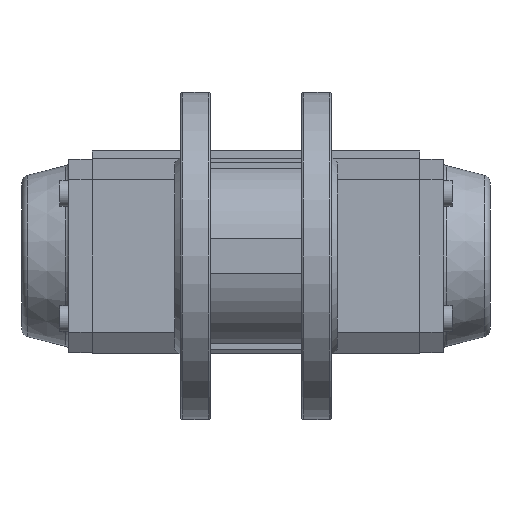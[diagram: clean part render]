
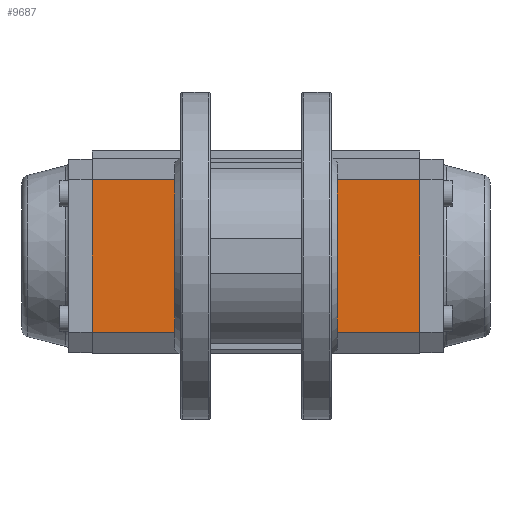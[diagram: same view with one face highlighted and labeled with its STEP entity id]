
A CAD part, front view. The second image highlights one B-rep face of the part: STEP entity #9687.
In plain terms, the highlighted planar face has unit normal (0, -1, 0).
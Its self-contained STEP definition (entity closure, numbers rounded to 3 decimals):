
#370 = EDGE_LOOP ( 'NONE', ( #613, #614 ) ) ;
#371 = EDGE_LOOP ( 'NONE', ( #617, #618 ) ) ;
#372 = EDGE_LOOP ( 'NONE', ( #615, #616 ) ) ;
#375 = EDGE_LOOP ( 'NONE', ( #611, #612 ) ) ;
#611 = ORIENTED_EDGE ( 'NONE', *, *, #9513, .F. ) ;
#612 = ORIENTED_EDGE ( 'NONE', *, *, #10333, .F. ) ;
#613 = ORIENTED_EDGE ( 'NONE', *, *, #9623, .F. ) ;
#614 = ORIENTED_EDGE ( 'NONE', *, *, #10337, .F. ) ;
#615 = ORIENTED_EDGE ( 'NONE', *, *, #9511, .F. ) ;
#616 = ORIENTED_EDGE ( 'NONE', *, *, #10206, .F. ) ;
#617 = ORIENTED_EDGE ( 'NONE', *, *, #9625, .F. ) ;
#618 = ORIENTED_EDGE ( 'NONE', *, *, #10350, .F. ) ;
#619 = ORIENTED_EDGE ( 'NONE', *, *, #9561, .F. ) ;
#620 = ORIENTED_EDGE ( 'NONE', *, *, #10309, .F. ) ;
#621 = ORIENTED_EDGE ( 'NONE', *, *, #9519, .T. ) ;
#622 = ORIENTED_EDGE ( 'NONE', *, *, #9473, .F. ) ;
#623 = ORIENTED_EDGE ( 'NONE', *, *, #9578, .F. ) ;
#624 = ORIENTED_EDGE ( 'NONE', *, *, #9532, .T. ) ;
#2103 = VECTOR ( 'NONE', #12789, 1000. ) ;
#2151 = CIRCLE ( 'NONE', #2153, 3.4 ) ;
#2152 = CIRCLE ( 'NONE', #2156, 3.4 ) ;
#2153 = AXIS2_PLACEMENT_3D ( 'NONE', #5457, #5458, #5459 ) ;
#2156 = AXIS2_PLACEMENT_3D ( 'NONE', #5465, #5466, #5467 ) ;
#2162 = VECTOR ( 'NONE', #5483, 1000. ) ;
#2173 = VECTOR ( 'NONE', #5522, 1000. ) ;
#2209 = CIRCLE ( 'NONE', #2214, 27.5 ) ;
#2214 = AXIS2_PLACEMENT_3D ( 'NONE', #5608, #5609, #5610 ) ;
#2233 = VECTOR ( 'NONE', #5661, 1000. ) ;
#2452 = CIRCLE ( 'NONE', #2457, 3.4 ) ;
#2457 = AXIS2_PLACEMENT_3D ( 'NONE', #5795, #5796, #5797 ) ;
#2458 = CIRCLE ( 'NONE', #2460, 3.4 ) ;
#2460 = AXIS2_PLACEMENT_3D ( 'NONE', #5801, #5802, #5803 ) ;
#4146 = AXIS2_PLACEMENT_3D ( 'NONE', #4976, #4977, #4978 ) ;
#4964 = FACE_BOUND ( 'NONE', #370, .T. ) ;
#4969 = FACE_BOUND ( 'NONE', #12152, .T. ) ;
#4970 = FACE_BOUND ( 'NONE', #375, .T. ) ;
#4971 = FACE_OUTER_BOUND ( 'NONE', #12151, .T. ) ;
#4972 = PLANE ( 'NONE',  #4146 ) ;
#4973 = FACE_BOUND ( 'NONE', #372, .T. ) ;
#4975 = FACE_BOUND ( 'NONE', #371, .T. ) ;
#4976 = CARTESIAN_POINT ( 'NONE',  ( -38.5, -55., -82.5 ) ) ;
#4977 = DIRECTION ( 'NONE',  ( 0., -1., 0. ) ) ;
#4978 = DIRECTION ( 'NONE',  ( 0., 0., -1. ) ) ;
#5457 = CARTESIAN_POINT ( 'NONE',  ( -24.749, -55., -24.749 ) ) ;
#5458 = DIRECTION ( 'NONE',  ( 0., -1., 0. ) ) ;
#5459 = DIRECTION ( 'NONE',  ( 0., 0., -1. ) ) ;
#5465 = CARTESIAN_POINT ( 'NONE',  ( 24.749, -55., 24.749 ) ) ;
#5466 = DIRECTION ( 'NONE',  ( 0., -1., 0. ) ) ;
#5467 = DIRECTION ( 'NONE',  ( 0., 0., -1. ) ) ;
#5472 = LINE ( 'NONE', #5473, #2162 ) ;
#5473 = CARTESIAN_POINT ( 'NONE',  ( 38.5, -55., -82.5 ) ) ;
#5483 = DIRECTION ( 'NONE',  ( 0., 0., 1. ) ) ;
#5501 = LINE ( 'NONE', #5521, #2173 ) ;
#5521 = CARTESIAN_POINT ( 'NONE',  ( -38.5, -55., -82.5 ) ) ;
#5522 = DIRECTION ( 'NONE',  ( 1., 0., 0. ) ) ;
#5608 = CARTESIAN_POINT ( 'NONE',  ( 0., -55., 0. ) ) ;
#5609 = DIRECTION ( 'NONE',  ( 0., -1., 0. ) ) ;
#5610 = DIRECTION ( 'NONE',  ( 0., 0., -1. ) ) ;
#5659 = LINE ( 'NONE', #5660, #2233 ) ;
#5660 = CARTESIAN_POINT ( 'NONE',  ( -38.5, -55., -82.5 ) ) ;
#5661 = DIRECTION ( 'NONE',  ( 0., 0., 1. ) ) ;
#5795 = CARTESIAN_POINT ( 'NONE',  ( 24.749, -55., -24.749 ) ) ;
#5796 = DIRECTION ( 'NONE',  ( 0., -1., 0. ) ) ;
#5797 = DIRECTION ( 'NONE',  ( 0., 0., -1. ) ) ;
#5801 = CARTESIAN_POINT ( 'NONE',  ( -24.749, -55., 24.749 ) ) ;
#5802 = DIRECTION ( 'NONE',  ( 0., -1., 0. ) ) ;
#5803 = DIRECTION ( 'NONE',  ( 0., 0., -1. ) ) ;
#6443 = CARTESIAN_POINT ( 'NONE',  ( -24.749, -55., -24.749 ) ) ;
#6444 = DIRECTION ( 'NONE',  ( 0., -1., 0. ) ) ;
#6445 = DIRECTION ( 'NONE',  ( 0., 0., -1. ) ) ;
#6751 = CARTESIAN_POINT ( 'NONE',  ( 0., -55., 0. ) ) ;
#6752 = DIRECTION ( 'NONE',  ( 0., -1., 0. ) ) ;
#6753 = DIRECTION ( 'NONE',  ( 0., 0., -1. ) ) ;
#6825 = CARTESIAN_POINT ( 'NONE',  ( 24.749, -55., 24.749 ) ) ;
#6826 = DIRECTION ( 'NONE',  ( 0., -1., 0. ) ) ;
#6827 = DIRECTION ( 'NONE',  ( 0., 0., -1. ) ) ;
#6836 = CARTESIAN_POINT ( 'NONE',  ( 24.749, -55., -24.749 ) ) ;
#6837 = DIRECTION ( 'NONE',  ( 0., -1., 0. ) ) ;
#6838 = DIRECTION ( 'NONE',  ( 0., 0., -1. ) ) ;
#6875 = CARTESIAN_POINT ( 'NONE',  ( -24.749, -55., 24.749 ) ) ;
#6876 = DIRECTION ( 'NONE',  ( 0., -1., 0. ) ) ;
#6877 = DIRECTION ( 'NONE',  ( 0., 0., -1. ) ) ;
#7846 = CIRCLE ( 'NONE', #7849, 3.4 ) ;
#7849 = AXIS2_PLACEMENT_3D ( 'NONE', #6443, #6444, #6445 ) ;
#7981 = CIRCLE ( 'NONE', #7986, 27.5 ) ;
#7986 = AXIS2_PLACEMENT_3D ( 'NONE', #6751, #6752, #6753 ) ;
#8024 = CIRCLE ( 'NONE', #8026, 3.4 ) ;
#8026 = AXIS2_PLACEMENT_3D ( 'NONE', #6825, #6826, #6827 ) ;
#8028 = CIRCLE ( 'NONE', #8031, 3.4 ) ;
#8031 = AXIS2_PLACEMENT_3D ( 'NONE', #6836, #6837, #6838 ) ;
#8047 = CIRCLE ( 'NONE', #8049, 3.4 ) ;
#8049 = AXIS2_PLACEMENT_3D ( 'NONE', #6875, #6876, #6877 ) ;
#9473 = EDGE_CURVE ( 'NONE', #10472, #10491, #12768, .T. ) ;
#9511 = EDGE_CURVE ( 'NONE', #11841, #11842, #2151, .T. ) ;
#9513 = EDGE_CURVE ( 'NONE', #11826, #11825, #2152, .T. ) ;
#9519 = EDGE_CURVE ( 'NONE', #10464, #10491, #5472, .T. ) ;
#9532 = EDGE_CURVE ( 'NONE', #10471, #10464, #5501, .T. ) ;
#9561 = EDGE_CURVE ( 'NONE', #11753, #11754, #2209, .T. ) ;
#9578 = EDGE_CURVE ( 'NONE', #10471, #10472, #5659, .T. ) ;
#9623 = EDGE_CURVE ( 'NONE', #11738, #11830, #2452, .T. ) ;
#9625 = EDGE_CURVE ( 'NONE', #11851, #11837, #2458, .T. ) ;
#9687 = ADVANCED_FACE ( 'NONE', ( #4970, #4964, #4973, #4975, #4969, #4971 ), #4972, .T. ) ;
#10206 = EDGE_CURVE ( 'NONE', #11842, #11841, #7846, .T. ) ;
#10309 = EDGE_CURVE ( 'NONE', #11754, #11753, #7981, .T. ) ;
#10333 = EDGE_CURVE ( 'NONE', #11825, #11826, #8024, .T. ) ;
#10337 = EDGE_CURVE ( 'NONE', #11830, #11738, #8028, .T. ) ;
#10350 = EDGE_CURVE ( 'NONE', #11837, #11851, #8047, .T. ) ;
#10464 = VERTEX_POINT ( 'NONE', #10625 ) ;
#10471 = VERTEX_POINT ( 'NONE', #10632 ) ;
#10472 = VERTEX_POINT ( 'NONE', #10633 ) ;
#10491 = VERTEX_POINT ( 'NONE', #10652 ) ;
#10625 = CARTESIAN_POINT ( 'NONE',  ( 38.5, -55., -82.5 ) ) ;
#10632 = CARTESIAN_POINT ( 'NONE',  ( -38.5, -55., -82.5 ) ) ;
#10633 = CARTESIAN_POINT ( 'NONE',  ( -38.5, -55., 82.5 ) ) ;
#10652 = CARTESIAN_POINT ( 'NONE',  ( 38.5, -55., 82.5 ) ) ;
#10778 = CARTESIAN_POINT ( 'NONE',  ( 24.749, -55., -28.149 ) ) ;
#10793 = CARTESIAN_POINT ( 'NONE',  ( 0., -55., -27.5 ) ) ;
#10794 = CARTESIAN_POINT ( 'NONE',  ( 0., -55., 27.5 ) ) ;
#10865 = CARTESIAN_POINT ( 'NONE',  ( 24.749, -55., 28.149 ) ) ;
#10866 = CARTESIAN_POINT ( 'NONE',  ( 24.749, -55., 21.349 ) ) ;
#10870 = CARTESIAN_POINT ( 'NONE',  ( 24.749, -55., -21.349 ) ) ;
#10877 = CARTESIAN_POINT ( 'NONE',  ( -24.749, -55., 28.149 ) ) ;
#10881 = CARTESIAN_POINT ( 'NONE',  ( -24.749, -55., -28.149 ) ) ;
#10882 = CARTESIAN_POINT ( 'NONE',  ( -24.749, -55., -21.349 ) ) ;
#10891 = CARTESIAN_POINT ( 'NONE',  ( -24.749, -55., 21.349 ) ) ;
#11738 = VERTEX_POINT ( 'NONE', #10778 ) ;
#11753 = VERTEX_POINT ( 'NONE', #10793 ) ;
#11754 = VERTEX_POINT ( 'NONE', #10794 ) ;
#11825 = VERTEX_POINT ( 'NONE', #10865 ) ;
#11826 = VERTEX_POINT ( 'NONE', #10866 ) ;
#11830 = VERTEX_POINT ( 'NONE', #10870 ) ;
#11837 = VERTEX_POINT ( 'NONE', #10877 ) ;
#11841 = VERTEX_POINT ( 'NONE', #10881 ) ;
#11842 = VERTEX_POINT ( 'NONE', #10882 ) ;
#11851 = VERTEX_POINT ( 'NONE', #10891 ) ;
#12151 = EDGE_LOOP ( 'NONE', ( #621, #622, #623, #624 ) ) ;
#12152 = EDGE_LOOP ( 'NONE', ( #619, #620 ) ) ;
#12768 = LINE ( 'NONE', #12788, #2103 ) ;
#12788 = CARTESIAN_POINT ( 'NONE',  ( -38.5, -55., 82.5 ) ) ;
#12789 = DIRECTION ( 'NONE',  ( 1., 0., 0. ) ) ;
